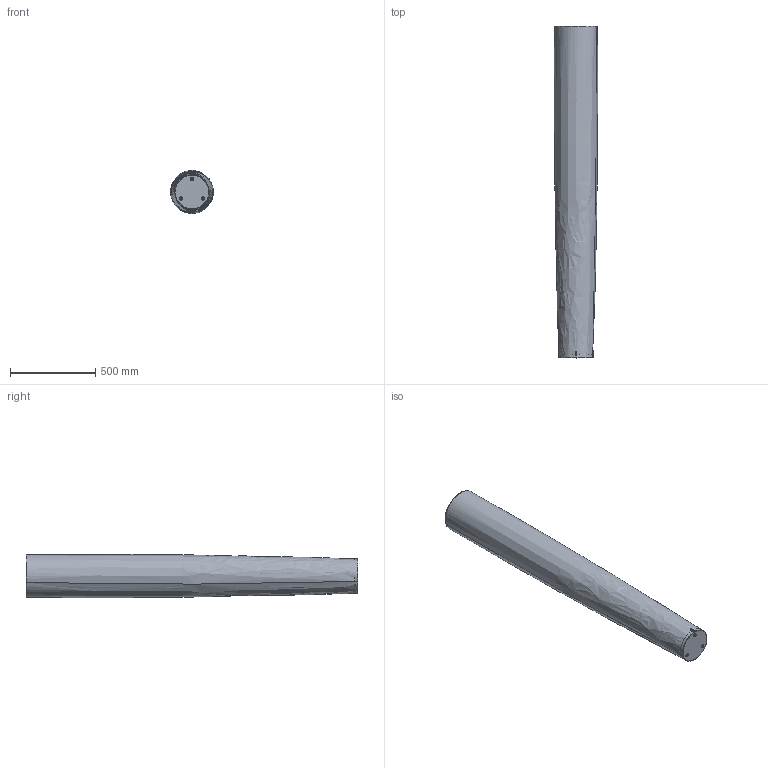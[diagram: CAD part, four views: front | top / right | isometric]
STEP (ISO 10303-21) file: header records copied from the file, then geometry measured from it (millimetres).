
FILE_DESCRIPTION (( 'STEP AP214' ), '1' );
FILE_NAME ('182_GRANDE_F_LD_3D.STEP', '2021-05-05T09:54:30', ( '' ), ( '' ), 'SwSTEP 2.0', 'SolidWorks 2021', '' );
FILE_SCHEMA (( 'AUTOMOTIVE_DESIGN' ));
Length unit declared in the file: millimetre
Products named in the file (1): 182_GRANDE_F_LD_3D
Bounding box: 254.67 x 1951 x 254.67 mm (x, y, z)
Volume: 2971857.9 mm3; surface area: 3201099.4 mm2
Topology: 7 solids, 7 shells, 427 faces, 1098 edges, 695 vertices
Faces by surface type: plane 135, cylinder 118, bspline 86, cone 46, torus 36, sphere 6
Entity records: 23746 total; most frequent: CARTESIAN_POINT 9009, ORIENTED_EDGE 2184, DIRECTION 1904, EDGE_CURVE 1092, AXIS2_PLACEMENT_3D 732, VERTEX_POINT 695, EDGE_LOOP 503, LINE 440
